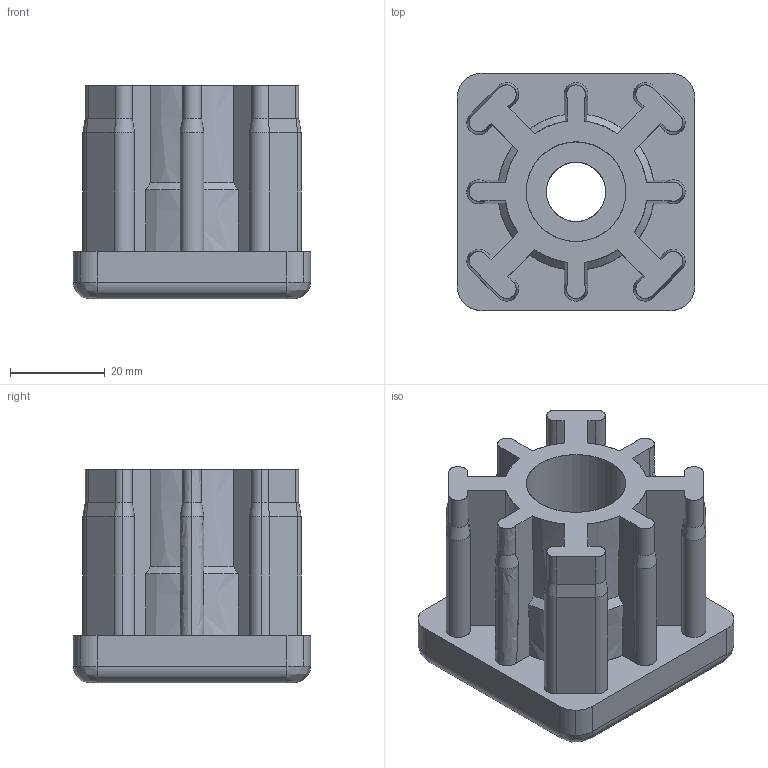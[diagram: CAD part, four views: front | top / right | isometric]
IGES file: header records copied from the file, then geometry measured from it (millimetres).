
Start section: SolidWorks IGES file using analytic representation for surfaces
Global section: file name: Y:\Tecnodin, S.L\Planos Clientes - Documentos\General\PLANOS CLIENTES\3D\-REVISAR-\CONTERAS TECOM\42006850314.IGS; native system: SolidWorks 2018; preprocessor: SolidWorks 2018; author: GerPro; date: 200226.121411; units: millimetre
Bounding box: 50 x 50 x 45 mm (x, y, z)
Surface area: 20668.1 mm2 (no closed solid volume)
Topology: 0 solids, 0 shells, 221 faces, 1840 edges, 1840 vertices
Faces by surface type: revolution 140, bspline 81
